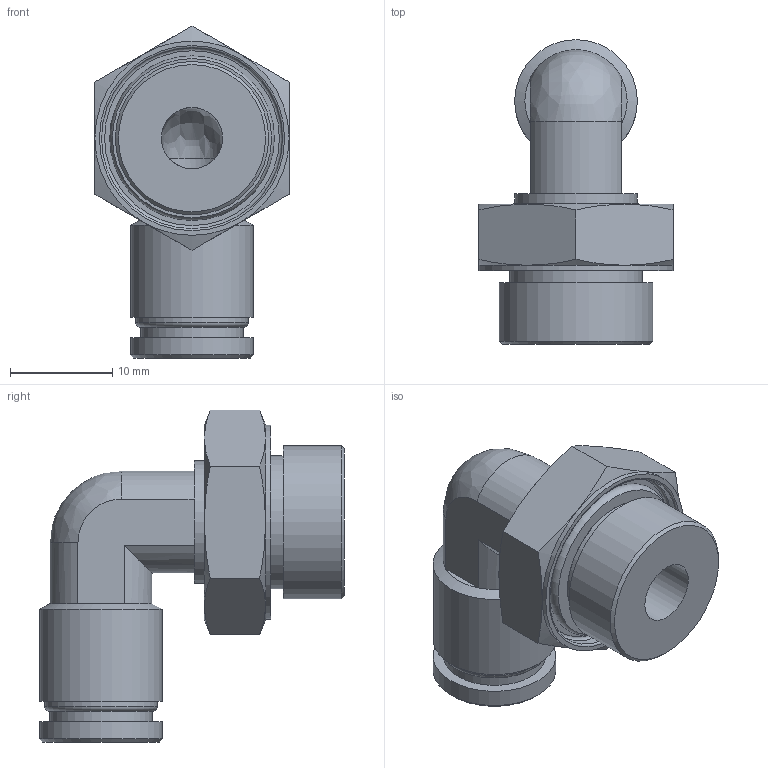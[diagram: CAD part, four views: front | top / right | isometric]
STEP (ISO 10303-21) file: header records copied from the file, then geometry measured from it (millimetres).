
FILE_DESCRIPTION(/* description */ (''),/* implementation_level */ '2;1');
FILE_NAME(/* name */ 'LXH28 0008 B3.stp',/* time_stamp */ '2026-04-30T12:37:07+02:00',/* author */ ('freju'),/* organization */ (''),/* preprocessor_version */ 'ST-DEVELOPER v20.1',/* originating_system */ 'Autodesk Inventor 2026',/* authorisation */ '');
FILE_SCHEMA (('AUTOMOTIVE_DESIGN { 1 0 10303 214 3 1 1 }'));
Length unit declared in the file: millimetre
Products named in the file (4): LXH28 0008 B3; LXH28 0008 B3_1; O-Ring; ISO 3601-1 - A 0125 G
Assembly tree (3 placements, depth 3):
  LXH28 0008 B3
    LXH28 0008 B3_1
    O-Ring
      ISO 3601-1 - A 0125 G
Bounding box: 19 x 29.8 x 32.47 mm (x, y, z)
Volume: 4340.1 mm3; surface area: 3846 mm2
Topology: 2 solids, 2 shells, 64 faces, 137 edges, 84 vertices
Faces by surface type: plane 23, cylinder 17, cone 15, torus 7, bspline 2
Full cylindrical faces by diameter (mm): 6 x2, 8 x1, 10 x1, 11 x1, 12 x3, 12.5 x1, 13 x1, 15 x1, 17.7 x1, 19 x1
Entity records: 1884 total; most frequent: CARTESIAN_POINT 372, DIRECTION 326, ORIENTED_EDGE 270, AXIS2_PLACEMENT_3D 146, EDGE_CURVE 135, VERTEX_POINT 84, EDGE_LOOP 77, CIRCLE 75
